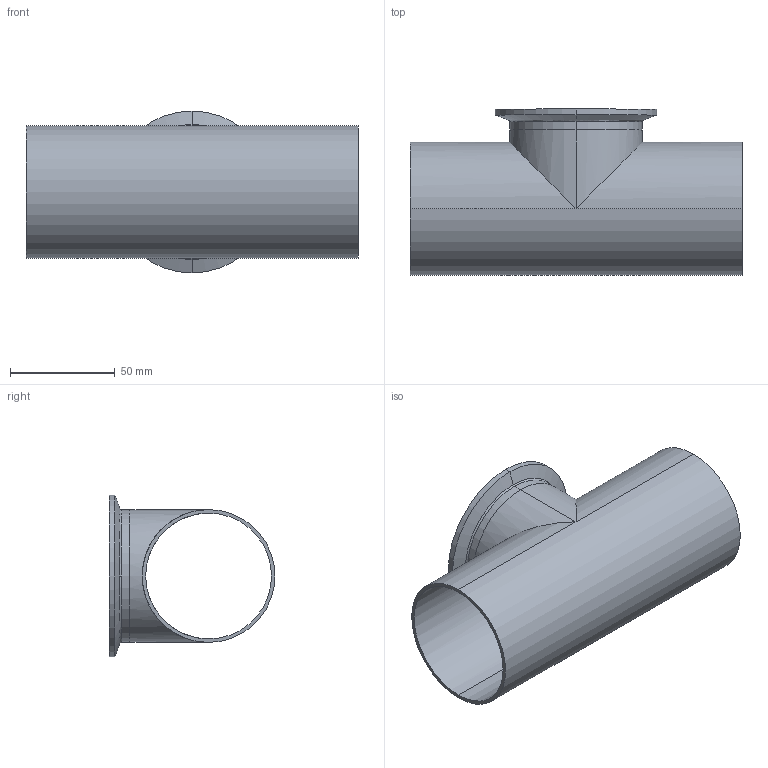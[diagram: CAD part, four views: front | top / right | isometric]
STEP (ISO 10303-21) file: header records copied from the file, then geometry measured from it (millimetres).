
FILE_DESCRIPTION (( 'STEP AP214' ), '1' );
FILE_NAME ('TE7WWCS6L2.5-...STEP', '2016-05-24T12:13:04', ( 'eran' ), ( '' ), 'SwSTEP 2.0', 'SolidWorks 2016', '' );
FILE_SCHEMA (( 'AUTOMOTIVE_DESIGN' ));
Length unit declared in the file: millimetre
Products named in the file (1): TE7WWCS6L2.5-..
Bounding box: 158.8 x 79.35 x 77.39 mm (x, y, z)
Volume: 59514.8 mm3; surface area: 69345 mm2
Topology: 2 solids, 2 shells, 38 faces, 92 edges, 58 vertices
Faces by surface type: cylinder 16, bspline 10, plane 6, cone 6
Entity records: 1854 total; most frequent: CARTESIAN_POINT 919, DIRECTION 198, ORIENTED_EDGE 184, EDGE_CURVE 92, AXIS2_PLACEMENT_3D 87, CIRCLE 58, VERTEX_POINT 58, EDGE_LOOP 44
